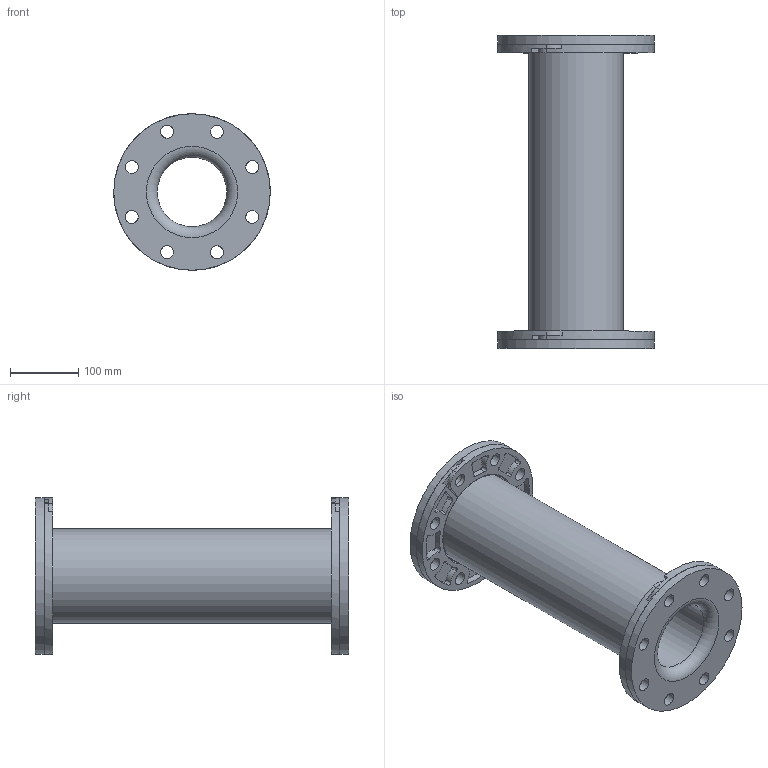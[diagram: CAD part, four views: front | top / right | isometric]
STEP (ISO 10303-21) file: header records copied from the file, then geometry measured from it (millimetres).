
FILE_DESCRIPTION(/* description */ (''),/* implementation_level */ '2;1');
FILE_NAME(/* name */ 'C:\001_Work\Designs\Mercer2014\MQInventor2014\RajR\150 Style\STP\STYLE 150 ASA150LB\150-4IDx18FF ASA150LB.stp',/* time_stamp */ '2016-05-20T18:43:42-04:00',/* author */ ('rramoutar'),/* organization */ ('Mason Industries Inc.'),/* preprocessor_version */ 'ST-DEVELOPER v15.6',/* originating_system */ 'Autodesk Inventor 2015',/* authorisation */ '');
FILE_SCHEMA (('CONFIG_CONTROL_DESIGN'));
Length unit declared in the file: inch
Products named in the file (1): 150-4IDx18FF
Bounding box: 228.6 x 457.2 x 228.6 mm (x, y, z)
Volume: 4115359.2 mm3; surface area: 626610 mm2
Topology: 3 solids, 3 shells, 258 faces, 700 edges, 466 vertices
Faces by surface type: cylinder 182, plane 64, torus 12
Full cylindrical faces by diameter (mm): 19.05 x36, 101.6 x1, 137.77 x1, 228.6 x4
Entity records: 8682 total; most frequent: DIRECTION 1564, CARTESIAN_POINT 1557, ORIENTED_EDGE 1300, AXIS2_PLACEMENT_3D 667, EDGE_CURVE 650, VERTEX_POINT 460, CIRCLE 408, EDGE_LOOP 390
